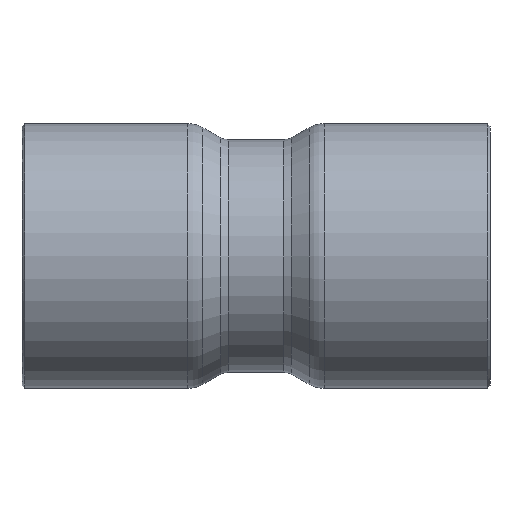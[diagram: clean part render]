
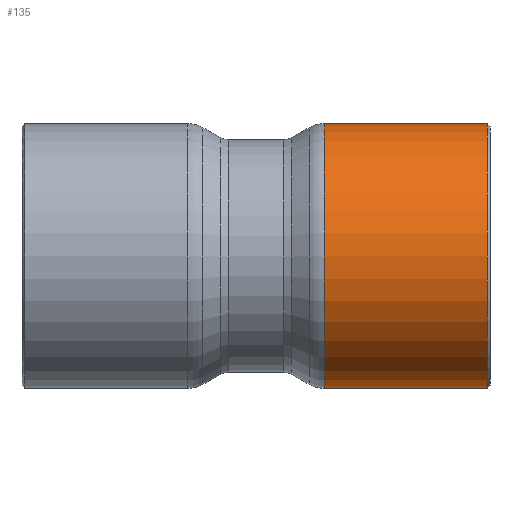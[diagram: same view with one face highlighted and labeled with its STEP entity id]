
A CAD part, front view. The second image highlights one B-rep face of the part: STEP entity #135.
In plain terms, the highlighted cylindrical face has radius 9.05 mm (diameter 18.1 mm), a full revolution.
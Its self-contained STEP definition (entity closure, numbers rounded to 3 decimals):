
#73=CARTESIAN_POINT('',(15.8,9.05,0.));
#74=VERTEX_POINT('',#73);
#75=CARTESIAN_POINT('',(15.8,0.0,0.0));
#76=DIRECTION('',(1.0,0.0,0.0));
#77=DIRECTION('',(0.0,-1.0,0.0));
#78=AXIS2_PLACEMENT_3D('',#75,#76,#77);
#79=CIRCLE('',#78,9.05);
#80=EDGE_CURVE('',#74,#74,#79,.T.);
#116=CARTESIAN_POINT('',(10.327,0.0,0.0));
#117=DIRECTION('',(1.0,0.0,0.0));
#118=DIRECTION('',(0.0,1.0,0.0));
#119=AXIS2_PLACEMENT_3D('',#116,#117,#118);
#120=CYLINDRICAL_SURFACE('',#119,9.05);
#121=CARTESIAN_POINT('',(4.654,9.05,0.0));
#122=VERTEX_POINT('',#121);
#123=CARTESIAN_POINT('',(4.654,0.0,0.0));
#124=DIRECTION('',(1.0,0.0,0.0));
#125=DIRECTION('',(0.0,1.0,0.0));
#126=AXIS2_PLACEMENT_3D('',#123,#124,#125);
#127=CIRCLE('',#126,9.05);
#128=EDGE_CURVE('',#122,#122,#127,.T.);
#129=ORIENTED_EDGE('',*,*,#128,.T.);
#130=EDGE_LOOP('',(#129));
#131=FACE_OUTER_BOUND('',#130,.T.);
#132=ORIENTED_EDGE('',*,*,#80,.F.);
#133=EDGE_LOOP('',(#132));
#134=FACE_BOUND('',#133,.T.);
#135=ADVANCED_FACE('',(#131,#134),#120,.T.);
